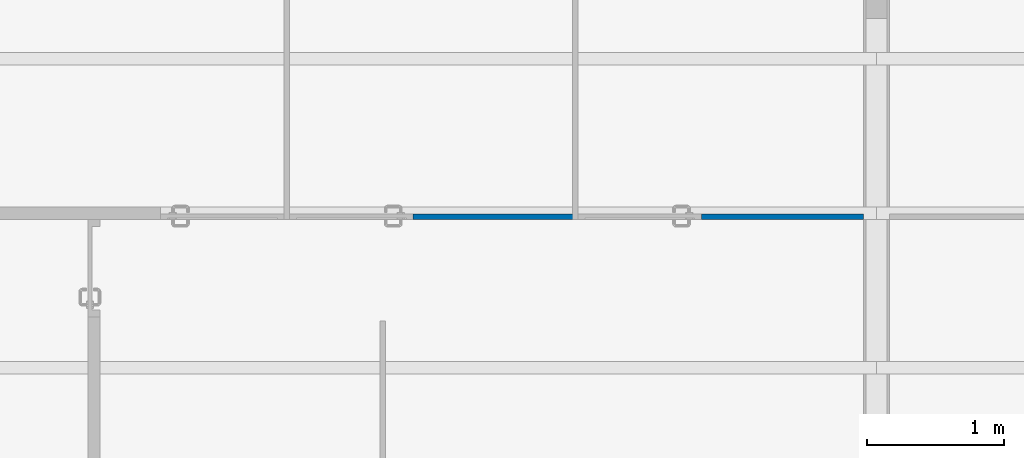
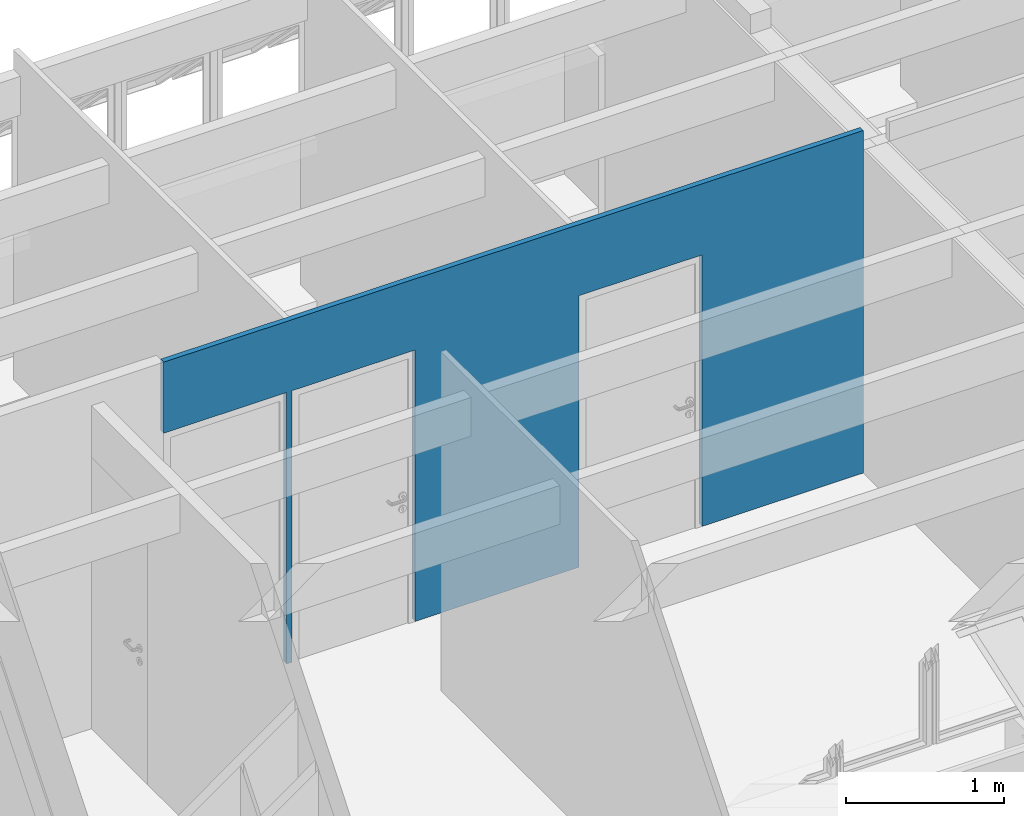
# One storey, part 20 of 37: 1 wall, 3 openings.
"""IFC2X3 building model written with IfcOpenShell, lengths in millimetres."""

from ifc_helpers import new_model, entity, si_unit, converted_unit, derived_unit, money_unit, direction, frame, origin_with_axes, origin_2d_with_axis, place, context, subcontext, project, spatial, polyline, rectangle, outline, extrude, material, layer, layer_set, layer_usage, type_object, element, save


model = new_model("IFC2X3")

# Units and contexts
model_context = context("Model", 3, precision=0.01, world=origin_with_axes(), true_north=direction((0.0, 1.0)))
body_context = subcontext(model_context, "Body", "Model", "MODEL_VIEW")
ifc_project = project(units=[si_unit("LENGTHUNIT", "METRE", prefix="MILLI"), si_unit("AREAUNIT", "SQUARE_METRE"), si_unit("VOLUMEUNIT", "CUBIC_METRE"), converted_unit("PLANEANGLEUNIT", "DEGREE", entity("IfcPlaneAngleMeasure", 0.0174532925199), si_unit("PLANEANGLEUNIT", "RADIAN"), dimensions=[0, 0, 0, 0, 0, 0, 0]), money_unit("USD"), converted_unit("TIMEUNIT", "Year", entity("IfcTimeMeasure", 31556926.0), si_unit("TIMEUNIT", "SECOND"), dimensions=[0, 0, 1, 0, 0, 0, 0]), si_unit("MASSUNIT", "GRAM", prefix="KILO"), si_unit("THERMODYNAMICTEMPERATUREUNIT", "DEGREE_CELSIUS"), si_unit("LUMINOUSINTENSITYUNIT", "LUMEN"), si_unit("ENERGYUNIT", "JOULE", prefix="MEGA"), derived_unit("THERMALCONDUCTANCEUNIT", [(si_unit("POWERUNIT", "WATT"), 1), (si_unit("LENGTHUNIT", "METRE"), -1), (si_unit("THERMODYNAMICTEMPERATUREUNIT", "KELVIN"), -1)]), derived_unit("SPECIFICHEATCAPACITYUNIT", [(si_unit("ENERGYUNIT", "JOULE"), 1), (si_unit("MASSUNIT", "GRAM", prefix="KILO"), -1), (si_unit("THERMODYNAMICTEMPERATUREUNIT", "KELVIN"), -1)]), derived_unit("MASSDENSITYUNIT", [(si_unit("MASSUNIT", "GRAM", prefix="KILO"), 1), (si_unit("VOLUMEUNIT", "CUBIC_METRE"), -1)])], contexts=[model_context])

# Site, building, storey
site_placement = place(None, origin_with_axes())
site = spatial("IfcSite", under=ifc_project, at=site_placement, Name="Local", CompositionType="ELEMENT")
building_placement = place(site_placement, origin_with_axes())
building = spatial("IfcBuilding", under=site, at=building_placement, Name="Construção", CompositionType="ELEMENT")
storey_placement = place(building_placement, origin_with_axes())
storey = spatial("IfcBuildingStorey", under=building, at=storey_placement, Name="Primeiro Pavimento", CompositionType="ELEMENT", Elevation=0.0)

# Wall, openings
ifc_material = material(Name="GENÉRICO - VEDAÇÃO EXTERNA")
ifc_layer = layer(ifc_material, 40.0, ventilated="UNKNOWN")
ifc_layer_set = layer_set([ifc_layer], Name="GENÉRICO - VEDAÇÃO EXTERNA 40")
ifc_layer_usage = layer_usage(ifc_layer_set, "AXIS2", "POSITIVE", 0.0)
wall_type = type_object("IfcWallType", Name="GENÉRICO - VEDAÇÃO EXTERNA 40", PredefinedType="NOTDEFINED")
wall_placement = place(storey_placement, frame((2170.0, 22394.7804333, 0.0), z_axis=(0.0, 0.0, 1.0), x_axis=(0.99999999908, 4.28841203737e-05, 0.0)))
wall = element("IfcWallStandardCase", 1, at=wall_placement, inside=storey, type_object=wall_type, material=ifc_layer_usage, Name="APTO3-PAREDE-006", context=body_context, shape_type="SweptSolid", body=[
    extrude(outline(polyline([(0.0, 0.0), (5120.00000471, 0.0), (5120.00000471, 40.0), (0.000857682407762, 40.0), (0.0, 0.0)])), origin_with_axes(), (0.0, 0.0, 1.0), 2650.0),
])
opening_1_placement = place(wall_placement, frame((1390.00000471, 0.0, 0.0), z_axis=(0.0, 0.0, 1.0), x_axis=(1.0, 0.0, 0.0)))
element("IfcOpeningElement", 2, at=opening_1_placement, cuts=wall, Name="APTO3-PORTA-002", context=body_context, shape_type="SweptSolid", body=[
    extrude(rectangle(XDim=900.0, YDim=2100.0, at=origin_2d_with_axis()), frame((0.0, 40.0, 1050.0), z_axis=(0.0, 1.0, 0.0), x_axis=(-1.0, 0.0, 0.0)), (0.0, 0.0, -1.0), 120.0),
])
opening_2_placement = place(wall_placement, frame((450.000004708, 0.0, 0.0), z_axis=(0.0, 0.0, 1.0), x_axis=(1.0, 0.0, 0.0)))
element("IfcOpeningElement", 3, at=opening_2_placement, cuts=wall, Name="APTO3-PORTA-001", context=body_context, shape_type="SweptSolid", body=[
    extrude(rectangle(XDim=900.0, YDim=2100.0, at=origin_2d_with_axis()), frame((0.0, 40.0, 1050.0), z_axis=(0.0, -1.0, 0.0), x_axis=(1.0, 0.0, 0.0)), (0.0, 0.0, 1.0), 120.0),
])
opening_3_placement = place(wall_placement, frame((3490.00000471, 0.0, 0.0), z_axis=(0.0, 0.0, 1.0), x_axis=(1.0, 0.0, 0.0)))
element("IfcOpeningElement", 4, at=opening_3_placement, cuts=wall, Name="APTO3-PORTA-000", context=body_context, shape_type="SweptSolid", body=[
    extrude(rectangle(XDim=900.0, YDim=2100.0, at=origin_2d_with_axis()), frame((0.0, 40.0, 1050.0), z_axis=(0.0, 1.0, 0.0), x_axis=(-1.0, 0.0, 0.0)), (0.0, 0.0, -1.0), 120.0),
])

save(model, "model.ifc")
